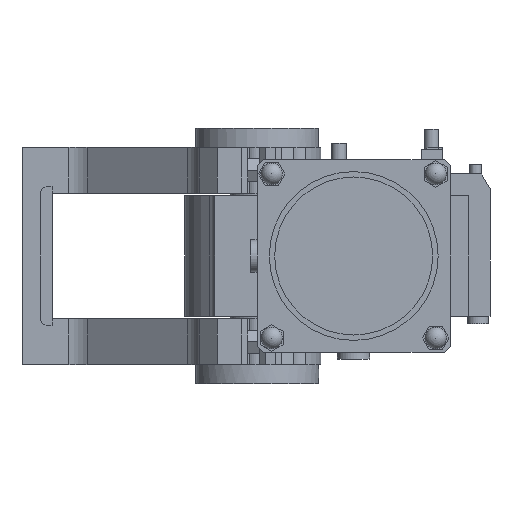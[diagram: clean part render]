
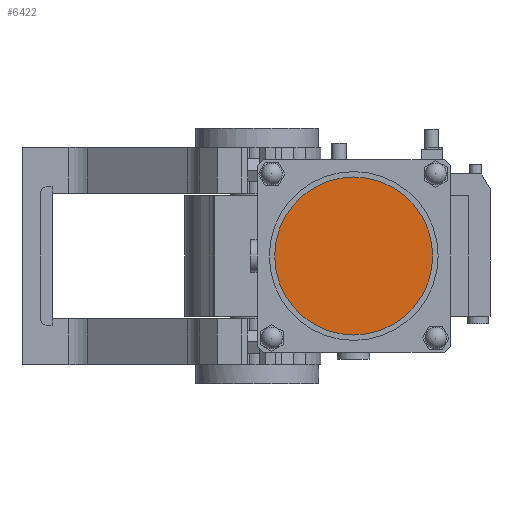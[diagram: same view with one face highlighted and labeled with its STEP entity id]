
A CAD part, front view. The second image highlights one B-rep face of the part: STEP entity #6422.
In plain terms, the highlighted planar face has unit normal (0, -1, 0).
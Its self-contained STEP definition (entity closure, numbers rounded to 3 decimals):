
#1500=PLANE('',#7107);
#2010=FACE_OUTER_BOUND('',#2500,.T.);
#2500=EDGE_LOOP('',(#5198));
#2829=CIRCLE('',#7018,65.5);
#3149=VERTEX_POINT('',#9883);
#3817=EDGE_CURVE('',#3149,#3149,#2829,.T.);
#5198=ORIENTED_EDGE('',*,*,#3817,.T.);
#6422=ADVANCED_FACE('',(#2010),#1500,.T.);
#7018=AXIS2_PLACEMENT_3D('',#9884,#8014,#8015);
#7107=AXIS2_PLACEMENT_3D('',#10196,#8312,#8313);
#8014=DIRECTION('center_axis',(0.,-1.,0.));
#8015=DIRECTION('ref_axis',(0.,0.,-1.));
#8312=DIRECTION('center_axis',(0.,-1.,0.));
#8313=DIRECTION('ref_axis',(0.,0.,-1.));
#9883=CARTESIAN_POINT('',(80.,-612.5,65.5));
#9884=CARTESIAN_POINT('Origin',(80.,-612.5,0.));
#10196=CARTESIAN_POINT('Origin',(80.,-612.5,0.));
